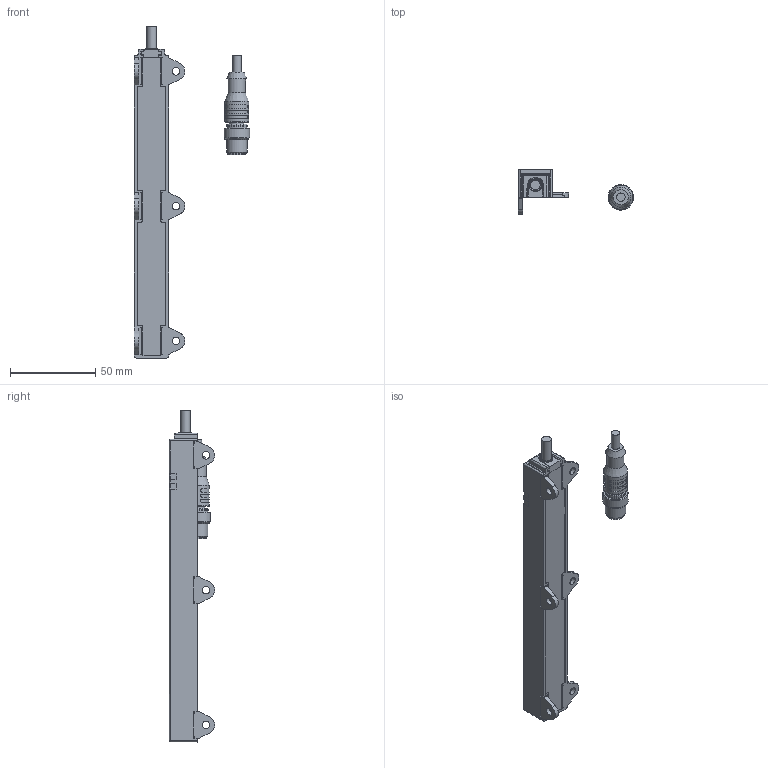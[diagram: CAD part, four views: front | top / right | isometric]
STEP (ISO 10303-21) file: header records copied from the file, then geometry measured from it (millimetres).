
FILE_DESCRIPTION((''),'2;1');
FILE_NAME('C:\TurckZip\Li150P1-Q17LM1-X2-RS.stp','2011-09-29T10:20:49',('IKOROL'),(''),'Autodesk Inventor 2010','Autodesk Inventor 2010','');
FILE_SCHEMA(('CONFIG_CONTROL_DESIGN'));
Length unit declared in the file: millimetre
Products named in the file (1): Li150P1-Q17LM1-X2-RS
Bounding box: 67.5 x 26.58 x 194.5 mm (x, y, z)
Volume: 63404.7 mm3; surface area: 25067.9 mm2
Topology: 2 solids, 2 shells, 826 faces, 2345 edges, 1520 vertices
Faces by surface type: plane 537, cylinder 252, cone 28, torus 9
Full cylindrical faces by diameter (mm): 4.5 x6, 5 x1, 5.6 x1, 7.5 x1, 8.3 x1, 9 x1, 9.9 x1, 10.2 x1, 10.5 x1, 10.7 x1, 12 x2, 12.5 x1, 14 x1, 14.2 x1, 15 x1
Entity records: 27258 total; most frequent: CARTESIAN_POINT 5364, ORIENTED_EDGE 4622, DIRECTION 4484, EDGE_CURVE 2311, VECTOR 1676, LINE 1676, VERTEX_POINT 1510, AXIS2_PLACEMENT_3D 1404
